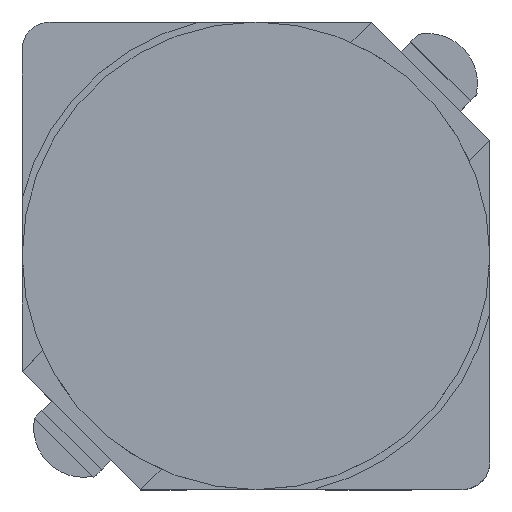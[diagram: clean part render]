
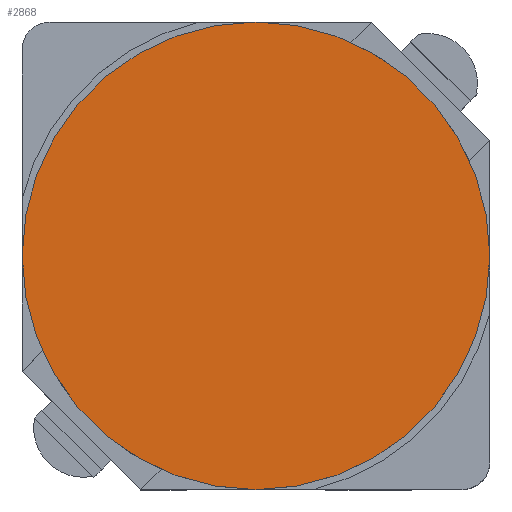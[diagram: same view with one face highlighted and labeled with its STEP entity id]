
A CAD part, top view. The second image highlights one B-rep face of the part: STEP entity #2868.
In plain terms, the highlighted planar face has unit normal (0, 0, 1).
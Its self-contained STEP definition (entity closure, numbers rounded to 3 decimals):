
#2806 = EDGE_CURVE('',#2807,#2809,#2811,.T.);
#2807 = VERTEX_POINT('',#2808);
#2808 = CARTESIAN_POINT('',(0.,3.35,
    2.9));
#2809 = VERTEX_POINT('',#2810);
#2810 = CARTESIAN_POINT('',(0.,-3.35,
    2.9));
#2811 = CIRCLE('',#2812,3.35);
#2812 = AXIS2_PLACEMENT_3D('',#2813,#2814,#2815);
#2813 = CARTESIAN_POINT('',(0.,0.,
    2.9));
#2814 = DIRECTION('',(0.,0.,1.));
#2815 = DIRECTION('',(0.,-1.,0.));
#2849 = EDGE_CURVE('',#2809,#2807,#2850,.T.);
#2850 = CIRCLE('',#2851,3.35);
#2851 = AXIS2_PLACEMENT_3D('',#2852,#2853,#2854);
#2852 = CARTESIAN_POINT('',(0.,0.,
    2.9));
#2853 = DIRECTION('',(0.,0.,1.));
#2854 = DIRECTION('',(0.,-1.,0.));
#2868 = ADVANCED_FACE('',(#2869),#2873,.T.);
#2869 = FACE_BOUND('',#2870,.T.);
#2870 = EDGE_LOOP('',(#2871,#2872));
#2871 = ORIENTED_EDGE('',*,*,#2849,.T.);
#2872 = ORIENTED_EDGE('',*,*,#2806,.T.);
#2873 = PLANE('',#2874);
#2874 = AXIS2_PLACEMENT_3D('',#2875,#2876,#2877);
#2875 = CARTESIAN_POINT('',(3.39,-3.39,
    2.9));
#2876 = DIRECTION('',(0.,0.,1.));
#2877 = DIRECTION('',(0.,1.,0.));
